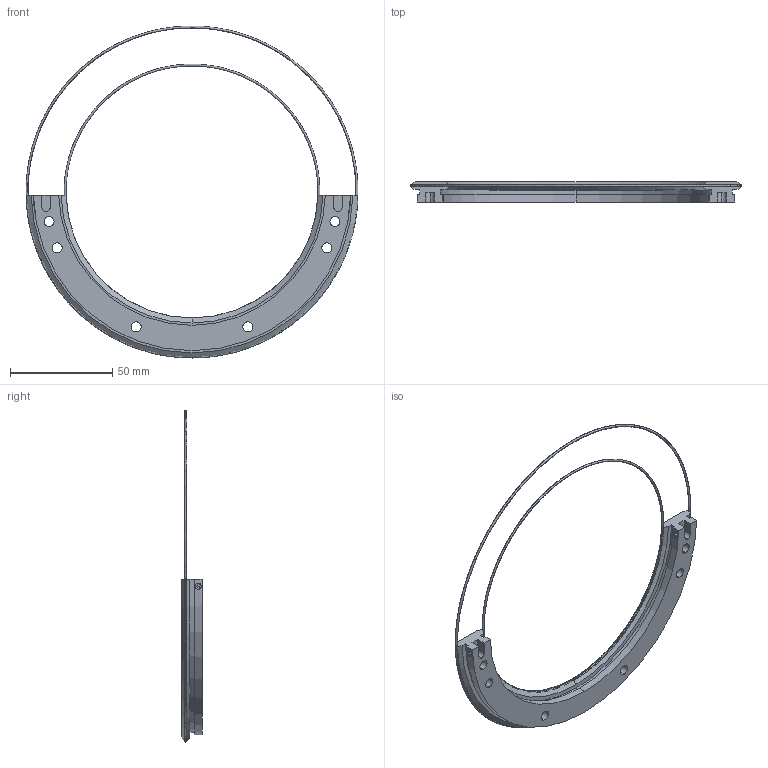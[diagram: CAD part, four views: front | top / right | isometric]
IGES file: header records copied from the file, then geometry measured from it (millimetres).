
Start section: 3D InterOp IGES (v. 2019 1.0.2), Spatial Corp. Copyright (c) 1999-2017.
Global section: file name: TR20 143 R180.igs; native system: Spatial Corp.; preprocessor: 3D InterOp GENERIC/IGES 3.0; author: Noname; organization: Noname; date: 20220628.092357; units: millimetre
Bounding box: 162.62 x 10 x 162.63 mm (x, y, z)
Surface area: 21048.6 mm2 (no closed solid volume)
Topology: 0 solids, 0 shells, 108 faces, 558 edges, 553 vertices
Faces by surface type: revolution 56, extrusion 52
